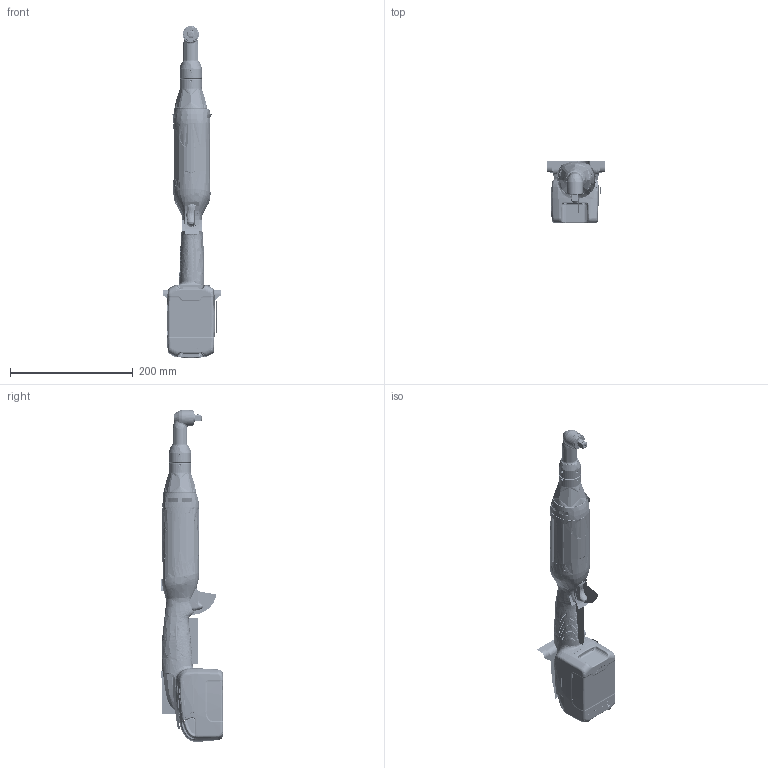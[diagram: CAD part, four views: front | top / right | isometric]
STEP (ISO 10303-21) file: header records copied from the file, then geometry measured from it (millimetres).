
FILE_DESCRIPTION((''),'2;1');
FILE_NAME('47519395001_ASM','2014-06-02T',('rryoung'),(''),'PRO/ENGINEER BY PARAMETRIC TECHNOLOGY CORPORATION, 2012450','PRO/ENGINEER BY PARAMETRIC TECHNOLOGY CORPORATION, 2012450','');
FILE_SCHEMA(('CONFIG_CONTROL_DESIGN'));
Products named in the file (37): 45592425; 45592649; 03098092; 45592664_NX; 03912466; 45592474_NX; 03823432; 03823374_NX; 03823440; 03822681; 03483708; 03823390_NX; 03046679; 03060993; 03437837; 45592094_NX; 03123999_NX; 45601432_ASM; 24224529; 24208795; 24208803; 47507311001_ASM; 47111786; 24272783; 24279325; 47086400; 24435927; 24272783_ASM; 24361370; 24586463; 45500642; 24260093_ASM; 47118054_NX; 47118211_NX; 47118229_NX; 47118237_NX; 47519395001_ASM
Assembly tree (36 placements, depth 3):
  47519395001_ASM
    45601432_ASM
      45592425
      45592649
      03098092
      45592664_NX
      03912466
      45592474_NX
      03823432
      03823374_NX
      03823440
      03822681
      03483708
      03823390_NX
      03046679
      03060993
      03437837
      45592094_NX
      03123999_NX
    24224529
    47507311001_ASM
      24208795
      24208803
    47111786
    24272783_ASM
      24272783
      24279325
      47086400
      24435927
    24361370
    24260093_ASM
      24586463
      45500642
    47118054_NX
    47118211_NX
    47118229_NX
    47118237_NX
Bounding box: 96 x 101 x 541.27 mm (x, y, z)
Volume: 416652.7 mm3; surface area: 987525.9 mm2
Topology: 79 solids, 372 shells, 15319 faces, 39902 edges, 24971 vertices
Faces by surface type: plane 4876, bspline 4533, cylinder 3397, torus 1191, cone 740, sphere 315, extrusion 252, revolution 15
Entity records: 810395 total; most frequent: CARTESIAN_POINT 479823, ORIENTED_EDGE 76900, DIRECTION 54256, EDGE_CURVE 39503, VERTEX_POINT 24977, AXIS2_PLACEMENT_3D 19891, B_SPLINE_CURVE_WITH_KNOTS 16305, EDGE_LOOP 15893
